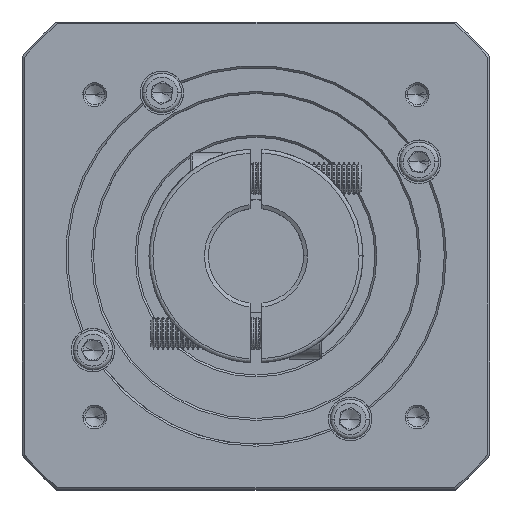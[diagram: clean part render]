
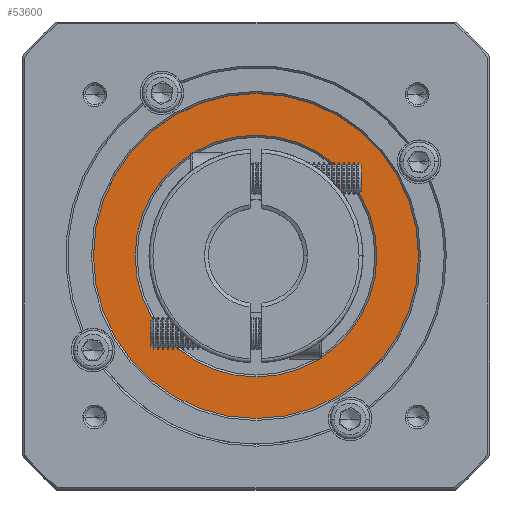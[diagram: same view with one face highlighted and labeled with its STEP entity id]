
A CAD part, top view. The second image highlights one B-rep face of the part: STEP entity #53600.
In plain terms, the highlighted planar face has unit normal (0, 0, 1).
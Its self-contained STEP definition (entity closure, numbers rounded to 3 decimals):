
#473 = DIRECTION ( 'NONE',  ( 1., 0., 0. ) ) ;
#528 = DIRECTION ( 'NONE',  ( 1., 0., 0. ) ) ;
#3021 = DIRECTION ( 'NONE',  ( 0., 0., 1. ) ) ;
#3372 = DIRECTION ( 'NONE',  ( 0., 0., 1. ) ) ;
#3703 = EDGE_LOOP ( 'NONE', ( #69124, #12282 ) ) ;
#6199 = AXIS2_PLACEMENT_3D ( 'NONE', #81897, #112848, #121918 ) ;
#10868 = FACE_BOUND ( 'NONE', #46302, .T. ) ;
#12282 = ORIENTED_EDGE ( 'NONE', *, *, #59393, .T. ) ;
#12557 = EDGE_CURVE ( 'NONE', #41421, #83412, #67522, .T. ) ;
#17438 = AXIS2_PLACEMENT_3D ( 'NONE', #93018, #3021, #34023 ) ;
#22094 = AXIS2_PLACEMENT_3D ( 'NONE', #78003, #68486, #473 ) ;
#24882 = VERTEX_POINT ( 'NONE', #61038 ) ;
#25193 = CIRCLE ( 'NONE', #6199, 30.5 ) ;
#34023 = DIRECTION ( 'NONE',  ( 1., 0., 0. ) ) ;
#37061 = FACE_OUTER_BOUND ( 'NONE', #3703, .T. ) ;
#41421 = VERTEX_POINT ( 'NONE', #114561 ) ;
#41691 = CIRCLE ( 'NONE', #47937, 41. ) ;
#46302 = EDGE_LOOP ( 'NONE', ( #109043, #120294 ) ) ;
#47937 = AXIS2_PLACEMENT_3D ( 'NONE', #59476, #118515, #528 ) ;
#53600 = ADVANCED_FACE ( 'NONE', ( #37061, #10868 ), #83112, .T. ) ;
#59393 = EDGE_CURVE ( 'NONE', #67799, #24882, #75549, .T. ) ;
#59476 = CARTESIAN_POINT ( 'NONE',  ( -62.309, -108.745, -24.626 ) ) ;
#61038 = CARTESIAN_POINT ( 'NONE',  ( -21.309, -108.745, -24.626 ) ) ;
#61996 = CARTESIAN_POINT ( 'NONE',  ( -103.309, -108.745, -24.626 ) ) ;
#64022 = EDGE_CURVE ( 'NONE', #24882, #67799, #41691, .T. ) ;
#66145 = AXIS2_PLACEMENT_3D ( 'NONE', #121342, #3372, #89964 ) ;
#66607 = EDGE_CURVE ( 'NONE', #83412, #41421, #25193, .T. ) ;
#67522 = CIRCLE ( 'NONE', #22094, 30.5 ) ;
#67799 = VERTEX_POINT ( 'NONE', #61996 ) ;
#68486 = DIRECTION ( 'NONE',  ( 0., 0., -1. ) ) ;
#69124 = ORIENTED_EDGE ( 'NONE', *, *, #64022, .T. ) ;
#75549 = CIRCLE ( 'NONE', #66145, 41. ) ;
#78003 = CARTESIAN_POINT ( 'NONE',  ( -62.309, -108.745, -24.626 ) ) ;
#81897 = CARTESIAN_POINT ( 'NONE',  ( -62.309, -108.745, -24.626 ) ) ;
#81899 = CARTESIAN_POINT ( 'NONE',  ( -31.809, -108.745, -24.626 ) ) ;
#83112 = PLANE ( 'NONE',  #17438 ) ;
#83412 = VERTEX_POINT ( 'NONE', #81899 ) ;
#89964 = DIRECTION ( 'NONE',  ( 1., 0., 0. ) ) ;
#93018 = CARTESIAN_POINT ( 'NONE',  ( -62.309, -108.745, -24.626 ) ) ;
#109043 = ORIENTED_EDGE ( 'NONE', *, *, #66607, .T. ) ;
#112848 = DIRECTION ( 'NONE',  ( 0., 0., -1. ) ) ;
#114561 = CARTESIAN_POINT ( 'NONE',  ( -92.809, -108.745, -24.626 ) ) ;
#118515 = DIRECTION ( 'NONE',  ( 0., 0., 1. ) ) ;
#120294 = ORIENTED_EDGE ( 'NONE', *, *, #12557, .T. ) ;
#121342 = CARTESIAN_POINT ( 'NONE',  ( -62.309, -108.745, -24.626 ) ) ;
#121918 = DIRECTION ( 'NONE',  ( 1., 0., 0. ) ) ;
